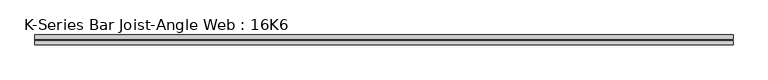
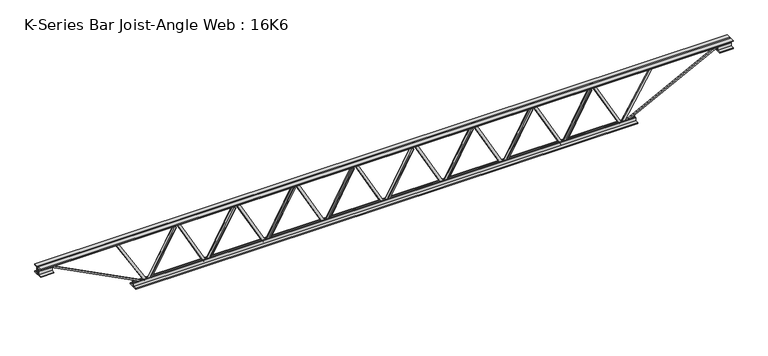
"""IFC4 building model written with IfcOpenShell, lengths in millimetres: beam geometry, K-Series Bar Joist-Angle Web : 16K6."""

import ifcopenshell
import ifcopenshell.guid

model = None  # the IFC model being written
_history = None  # IfcOwnerHistory: only IFC2X3 demands one
_inside = {}  # id of a spatial element -> (the spatial element, [elements in it])
_under = {}  # id of a project, library or spatial element -> (it, [spatial elements below it])
_declared = {}  # id of a project -> (the project, [libraries it declares])
_typed = {}  # id of a type object -> (the type object, [elements of that type])
_made_of = {}  # id of a material, layer set ... -> (it, [elements and type objects made of it])


def new_model(schema):
    """Start an empty IFC model of exactly this schema.

    Asked for "IFC4X3", IfcOpenShell would pick the latest addendum, in which some entities
    have other attributes; the version numbers below select the first issue.
    IFC2X3 requires an IfcOwnerHistory on every rooted entity: one is made here for all.
    """
    global model, _history
    if schema == "IFC4X3":
        model = ifcopenshell.file(schema_version=(4, 3, 0, 0))
    else:
        model = ifcopenshell.file(schema=schema)
    _inside.clear()
    _under.clear()
    _declared.clear()
    _typed.clear()
    _made_of.clear()
    _history = None
    if model.schema == "IFC2X3":
        org = make("IfcOrganization", Name="unknown")
        user = make(
            "IfcPersonAndOrganization",
            ThePerson=make("IfcPerson", FamilyName="unknown"),
            TheOrganization=org,
        )
        app = make(
            "IfcApplication",
            ApplicationDeveloper=org,
            Version="unknown",
            ApplicationFullName="unknown",
            ApplicationIdentifier="unknown",
        )
        _history = make(
            "IfcOwnerHistory",
            OwningUser=user,
            OwningApplication=app,
            ChangeAction="ADDED",
            CreationDate=0,
        )
    return model


def make(cls, **values):
    """One entity of the class cls with the attributes given. An attribute that is None is left unset."""
    return model.create_entity(
        cls, **{name: value for name, value in values.items() if value is not None}
    )


def rooted(cls, **values):
    """An entity with a GlobalId (a new one), such as an element, a storey or a relation."""
    return make(cls, GlobalId=ifcopenshell.guid.new(), OwnerHistory=_history, **values)


def si_unit(unit_type, name, prefix=None):
    """IfcSIUnit, for example si_unit("LENGTHUNIT", "METRE", prefix="MILLI")."""
    return make("IfcSIUnit", UnitType=unit_type, Prefix=prefix, Name=name)


def assignment(units):
    """IfcUnitAssignment: the units of a project."""
    return None if units is None else make("IfcUnitAssignment", Units=units)


def point(xyz):
    """IfcCartesianPoint."""
    return None if xyz is None else make("IfcCartesianPoint", Coordinates=xyz)


def direction(xyz):
    """IfcDirection."""
    return None if xyz is None else make("IfcDirection", DirectionRatios=xyz)


def frame(location, z_axis=None, x_axis=None):
    """IfcAxis2Placement3D, a coordinate frame: its origin and axes. An axis left out is left unset."""
    return make(
        "IfcAxis2Placement3D",
        Location=point(location),
        Axis=direction(z_axis),
        RefDirection=direction(x_axis),
    )


def origin():
    """The frame at (0, 0, 0) with its axes left unset."""
    return frame((0.0, 0.0, 0.0))


def place(relative_to, where):
    """IfcLocalPlacement: puts the frame where relative to a parent placement (None: the world)."""
    return make(
        "IfcLocalPlacement", PlacementRelTo=relative_to, RelativePlacement=where
    )


def context(
    kind, dimensions, precision=None, world=None, true_north=None, identifier=None
):
    """IfcGeometricRepresentationContext, for example the 3D "Model" context."""
    return make(
        "IfcGeometricRepresentationContext",
        ContextIdentifier=identifier,
        ContextType=kind,
        CoordinateSpaceDimension=dimensions,
        Precision=precision,
        WorldCoordinateSystem=world,
        TrueNorth=true_north,
    )


def project(units=None, contexts=None):
    """IfcProject with its units and contexts."""
    return rooted(
        "IfcProject",
        Name="project",
        RepresentationContexts=contexts,
        UnitsInContext=assignment(units),
    )


def spatial(cls, under=None, at=None, **own):
    """A site, building, storey or space (cls), placed at a placement, below another one or the project."""
    s = rooted(cls, ObjectPlacement=at, **own)
    if under is not None:
        _under.setdefault(under.id(), (under, []))[1].append(s)
    return s


def polyline(points):
    """IfcPolyline through the points."""
    return make("IfcPolyline", Points=[point(p) for p in points])


def outline(outer, holes=None, kind="AREA"):
    """IfcArbitraryClosedProfileDef: a profile drawn as a closed curve; with holes, ...WithVoids."""
    if holes is None:
        return make("IfcArbitraryClosedProfileDef", ProfileType=kind, OuterCurve=outer)
    return make(
        "IfcArbitraryProfileDefWithVoids",
        ProfileType=kind,
        OuterCurve=outer,
        InnerCurves=holes,
    )


def extrude(swept, where, along, depth):
    """IfcExtrudedAreaSolid: the profile swept, set in the frame where, extruded along a direction by depth."""
    return make(
        "IfcExtrudedAreaSolid",
        SweptArea=swept,
        Position=where,
        ExtrudedDirection=direction(along),
        Depth=depth,
    )


def faces_of(points, faces, orient=None, outer=None):
    """IfcFace entities. A face is a list of loops; a loop is a list of indices into points, from 0.

    orient and outer hold one flag for each loop. By default every Orientation is true, the
    first loop of a face is its IfcFaceOuterBound and the others are IfcFaceBound.
    """
    made = []
    for i, loops in enumerate(faces):
        bounds = []
        for j, loop in enumerate(loops):
            is_outer = j == 0 if outer is None else outer[i][j]
            bounds.append(
                make(
                    "IfcFaceOuterBound" if is_outer else "IfcFaceBound",
                    Bound=make("IfcPolyLoop", Polygon=[points[k] for k in loop]),
                    Orientation=True if orient is None else orient[i][j],
                )
            )
        made.append(make("IfcFace", Bounds=bounds))
    return made


def faceted_brep(points, faces, orient=None, outer=None, voids=None):
    """IfcFacetedBrep: a solid bounded by flat faces; with voids (closed shells), ...WithVoids."""
    shared = [point(p) for p in points]
    hull = make("IfcClosedShell", CfsFaces=faces_of(shared, faces, orient, outer))
    if voids is None:
        return make("IfcFacetedBrep", Outer=hull)
    return make(
        "IfcFacetedBrepWithVoids",
        Outer=hull,
        Voids=[
            make(cls, CfsFaces=faces_of(shared, fs, o, b)) for cls, fs, o, b in voids
        ],
    )


def shape(context_of_items, identifier, shape_type, items):
    """IfcShapeRepresentation: the items that make up one representation, for example the "Body"."""
    return make(
        "IfcShapeRepresentation",
        ContextOfItems=context_of_items,
        RepresentationIdentifier=identifier,
        RepresentationType=shape_type,
        Items=items,
    )


def source(mapping_origin, context_of_items, identifier, shape_type, items):
    """IfcRepresentationMap: a shape defined once, which mapped items show again and again."""
    return make(
        "IfcRepresentationMap",
        MappingOrigin=mapping_origin,
        MappedRepresentation=shape(context_of_items, identifier, shape_type, items),
    )


def transform(
    local_origin,
    x_axis=None,
    y_axis=None,
    z_axis=None,
    scale=None,
    scale2=None,
    scale3=None,
    uniform=True,
):
    """IfcCartesianTransformationOperator3D, or its non-uniform kind. x_axis, y_axis, z_axis: its Axis1, 2, 3."""
    if uniform:
        return make(
            "IfcCartesianTransformationOperator3D",
            Axis1=direction(x_axis),
            Axis2=direction(y_axis),
            LocalOrigin=point(local_origin),
            Scale=scale,
            Axis3=direction(z_axis),
        )
    return make(
        "IfcCartesianTransformationOperator3DnonUniform",
        Axis1=direction(x_axis),
        Axis2=direction(y_axis),
        LocalOrigin=point(local_origin),
        Scale=scale,
        Axis3=direction(z_axis),
        Scale2=scale2,
        Scale3=scale3,
    )


def mapped(mapping_source, mapping_target):
    """IfcMappedItem: shows the shape of a source again, moved by a transform."""
    return make(
        "IfcMappedItem", MappingSource=mapping_source, MappingTarget=mapping_target
    )


def made_of(thing, what):
    """Note that an element or type object is made of a material, layer set ...; save() writes the relation."""
    if what is not None:
        _made_of.setdefault(what.id(), (what, []))[1].append(thing)
    return thing


def element(
    cls,
    number,
    at=None,
    inside=None,
    cuts=None,
    type_object=None,
    material=None,
    context=None,
    identifier="Body",
    shape_type=None,
    held_by="IfcProductDefinitionShape",
    body=None,
    shapes=None,
    **own,
):
    """One element of the class cls, such as IfcWall. Its Tag is "e" and its number.

    at: its placement. inside: the storey or other place that contains it. cuts: it is an
    opening in that element (IfcRelVoidsElement). A single representation is given by context,
    identifier, shape_type and body (its items); several are given by shapes. held_by: the class
    of the entity that holds the representations. save() writes the other relations.
    """
    e = rooted(cls, Tag="e%d" % number, ObjectPlacement=at, **own)
    if body is not None:
        shapes = [shape(context, identifier, shape_type, body)]
    if shapes is not None:
        e.Representation = make(held_by, Representations=shapes)
    if inside is not None:
        _inside.setdefault(inside.id(), (inside, []))[1].append(e)
    if cuts is not None:
        rooted(
            "IfcRelVoidsElement", RelatingBuildingElement=cuts, RelatedOpeningElement=e
        )
    if type_object is not None:
        _typed.setdefault(type_object.id(), (type_object, []))[1].append(e)
    return made_of(e, material)


def aggregate(whole, parts):
    """IfcRelAggregates: a whole, such as a stair, and the parts it consists of."""
    return rooted("IfcRelAggregates", RelatingObject=whole, RelatedObjects=parts)


def save(model, path):
    """Write the relations noted so far, then the file.

    IfcRelAggregates (storeys below a building ...), IfcRelContainedInSpatialStructure (elements
    in a storey), IfcRelDefinesByType, IfcRelAssociatesMaterial and IfcRelDeclares: one each for
    every whole, place, type object, material and project.
    """
    for whole, parts in _under.values():
        aggregate(whole, parts)
    for where, things in _inside.values():
        rooted(
            "IfcRelContainedInSpatialStructure",
            RelatedElements=things,
            RelatingStructure=where,
        )
    for kind, things in _typed.values():
        rooted("IfcRelDefinesByType", RelatedObjects=things, RelatingType=kind)
    for what, things in _made_of.values():
        rooted("IfcRelAssociatesMaterial", RelatedObjects=things, RelatingMaterial=what)
    for by, libraries in _declared.values():
        rooted("IfcRelDeclares", RelatingContext=by, RelatedDefinitions=libraries)
    model.write(path)


def k_series_bar_joist_angle_web_16k6_7619eb6f(model_context):
    return source(origin(), model_context, "Body", "SolidModel", [
        extrude(outline(polyline([(-4.75, 4.7625), (-4.75, 0.0), (-17.45, 0.0), (-17.45, 4.7625), (-4.75, 4.7625)])), frame((1299.688596, 0.0, -164.9), z_axis=(-0.48142361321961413, 0.0, 0.8764880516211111), x_axis=(0.0, -1.0, 0.0)), (0.0, 0.0, 1.0), 376.2743821),
        extrude(outline(polyline([(-199.825, 1330.8571429), (-180.775, 1330.8571429), (-180.775, 1330.1426334), (199.825, 1121.0926334), (199.825, 1102.7571429), (180.775, 1102.7571429), (180.775, 1109.8216524), (-199.825, 1318.8716524), (-199.825, 1330.8571429)])), frame((0.0, 0.0, 0.0), z_axis=(0.0, 1.0, 0.0), x_axis=(0.0, 0.0, 1.0)), (0.0, 0.0, 1.0), 4.75),
        faceted_brep([(887.3571429, 0.0, -180.775), (887.3571429, 0.0, -199.825), (887.3571429, -4.75, -199.825), (887.3571429, -4.75, -180.775), (888.0716524, 0.0, -180.775), (1097.1216524, 0.0, 199.825), (1115.4571429, 0.0, 199.825), (1115.4571429, 0.0, 180.775), (1108.3926334, 0.0, 180.775), (899.3426334, 0.0, -199.825), (899.3426334, -4.75, -199.825), (918.5256897, -4.75, -164.9), (914.3514154, -4.75, -162.60722), (1095.4987879, -4.75, 167.19278), (1099.6730623, -4.75, 164.9), (1108.3926334, -4.75, 180.775), (1115.4571429, -4.75, 180.775), (1115.4571429, -4.75, 199.825), (1097.1216524, -4.75, 199.825), (888.0716524, -4.75, -180.775), (1099.6730623, -17.4625, 164.9), (918.5256897, -17.4625, -164.9), (914.3514154, -17.4625, -162.60722), (1095.4987879, -17.4625, 167.19278)], [[[0, 1, 2, 3]], [[1, 0, 4, 5, 6, 7, 8, 9]], [[2, 1, 9, 10]], [[3, 2, 10, 11, 12, 13, 14, 15, 16, 17, 18, 19]], [[0, 3, 19, 4]], [[9, 8, 15, 14, 20, 21, 11, 10]], [[5, 4, 19, 18]], [[7, 6, 17, 16]], [[8, 7, 16, 15]], [[6, 5, 18, 17]], [[21, 22, 12, 11]], [[20, 14, 13, 23]], [[22, 21, 20, 23]], [[12, 22, 23, 13]]]),
        extrude(outline(polyline([(-4.75, 4.7625), (-4.75, 0.0), (-17.45, 0.0), (-17.45, 4.7625), (-4.75, 4.7625)])), frame((856.0457389, 0.0, -164.9), z_axis=(-0.48142361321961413, 0.0, 0.8764880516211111), x_axis=(0.0, -1.0, 0.0)), (0.0, 0.0, 1.0), 376.2743821),
        extrude(outline(polyline([(-199.825, 887.2142857), (-180.775, 887.2142857), (-180.775, 886.4997762), (199.825, 677.4497762), (199.825, 659.1142857), (180.775, 659.1142857), (180.775, 666.1787952), (-199.825, 875.2287952), (-199.825, 887.2142857)])), frame((0.0, 0.0, 0.0), z_axis=(0.0, 1.0, 0.0), x_axis=(0.0, 0.0, 1.0)), (0.0, 0.0, 1.0), 4.75),
        faceted_brep([(443.7142857, 0.0, -180.775), (443.7142857, 0.0, -199.825), (443.7142857, -4.75, -199.825), (443.7142857, -4.75, -180.775), (444.4287952, 0.0, -180.775), (653.4787952, 0.0, 199.825), (671.8142857, 0.0, 199.825), (671.8142857, 0.0, 180.775), (664.7497762, 0.0, 180.775), (455.6997762, 0.0, -199.825), (455.6997762, -4.75, -199.825), (474.8828326, -4.75, -164.9), (470.7085582, -4.75, -162.60722), (651.8559308, -4.75, 167.19278), (656.0302051, -4.75, 164.9), (664.7497762, -4.75, 180.775), (671.8142857, -4.75, 180.775), (671.8142857, -4.75, 199.825), (653.4787952, -4.75, 199.825), (444.4287952, -4.75, -180.775), (656.0302051, -17.4625, 164.9), (474.8828326, -17.4625, -164.9), (470.7085582, -17.4625, -162.60722), (651.8559308, -17.4625, 167.19278)], [[[0, 1, 2, 3]], [[1, 0, 4, 5, 6, 7, 8, 9]], [[2, 1, 9, 10]], [[3, 2, 10, 11, 12, 13, 14, 15, 16, 17, 18, 19]], [[0, 3, 19, 4]], [[9, 8, 15, 14, 20, 21, 11, 10]], [[5, 4, 19, 18]], [[7, 6, 17, 16]], [[8, 7, 16, 15]], [[6, 5, 18, 17]], [[21, 22, 12, 11]], [[20, 14, 13, 23]], [[22, 21, 20, 23]], [[12, 22, 23, 13]]]),
        extrude(outline(polyline([(-4.75, 4.7625001), (-4.75, 0.0), (-17.45, 0.0), (-17.45, 4.7625001), (-4.75, 4.7625001)])), frame((412.4028817, 0.0, -164.9), z_axis=(-0.48142361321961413, 0.0, 0.8764880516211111), x_axis=(0.0, -1.0, 0.0)), (0.0, 0.0, 1.0), 376.2743821),
        extrude(outline(polyline([(-199.825, 443.5714286), (-180.775, 443.5714286), (-180.775, 442.8569191), (199.825, 233.8069191), (199.825, 215.4714286), (180.775, 215.4714286), (180.775, 222.5359381), (-199.825, 431.5859381), (-199.825, 443.5714286)])), frame((0.0, 0.0, 0.0), z_axis=(0.0, 1.0, 0.0), x_axis=(0.0, 0.0, 1.0)), (0.0, 0.0, 1.0), 4.75),
        faceted_brep([(0.0714286, 0.0, -180.775), (0.0714286, 0.0, -199.825), (0.0714286, -4.75, -199.825), (0.0714286, -4.75, -180.775), (0.7859381, 0.0, -180.775), (209.8359381, 0.0, 199.825), (228.1714286, 0.0, 199.825), (228.1714286, 0.0, 180.775), (221.1069191, 0.0, 180.775), (12.0569191, 0.0, -199.825), (12.0569191, -4.75, -199.825), (31.2399754, -4.75, -164.9), (27.0657011, -4.75, -162.60722), (208.2130736, -4.75, 167.19278), (212.387348, -4.75, 164.9), (221.1069191, -4.75, 180.775), (228.1714286, -4.75, 180.775), (228.1714286, -4.75, 199.825), (209.8359381, -4.75, 199.825), (0.7859381, -4.75, -180.775), (212.387348, -17.4625, 164.9), (31.2399754, -17.4625, -164.9), (27.0657011, -17.4625, -162.60722), (208.2130736, -17.4625, 167.19278)], [[[0, 1, 2, 3]], [[1, 0, 4, 5, 6, 7, 8, 9]], [[2, 1, 9, 10]], [[3, 2, 10, 11, 12, 13, 14, 15, 16, 17, 18, 19]], [[0, 3, 19, 4]], [[9, 8, 15, 14, 20, 21, 11, 10]], [[5, 4, 19, 18]], [[7, 6, 17, 16]], [[8, 7, 16, 15]], [[6, 5, 18, 17]], [[21, 22, 12, 11]], [[20, 14, 13, 23]], [[22, 21, 20, 23]], [[12, 22, 23, 13]]]),
        extrude(outline(polyline([(-4.75, 4.7625), (-4.75, 0.0), (-17.45, 0.0), (-17.45, 4.7625), (-4.75, 4.7625)])), frame((-31.2399754, 0.0, -164.9), z_axis=(-0.48142361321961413, 0.0, 0.8764880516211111), x_axis=(0.0, -1.0, 0.0)), (0.0, 0.0, 1.0), 376.2743821),
        extrude(outline(polyline([(-199.825, -0.0714286), (-180.775, -0.0714286), (-180.775, -0.7859381), (199.825, -209.8359381), (199.825, -228.1714286), (180.775, -228.1714286), (180.775, -221.1069191), (-199.825, -12.0569191), (-199.825, -0.0714286)])), frame((0.0, 0.0, 0.0), z_axis=(0.0, 1.0, 0.0), x_axis=(0.0, 0.0, 1.0)), (0.0, 0.0, 1.0), 4.75),
        faceted_brep([(-443.5714286, 0.0, -180.775), (-443.5714286, 0.0, -199.825), (-443.5714286, -4.75, -199.825), (-443.5714286, -4.75, -180.775), (-442.8569191, 0.0, -180.775), (-233.8069191, 0.0, 199.825), (-215.4714286, 0.0, 199.825), (-215.4714286, 0.0, 180.775), (-222.5359381, 0.0, 180.775), (-431.5859381, 0.0, -199.825), (-431.5859381, -4.75, -199.825), (-412.4028817, -4.75, -164.9), (-416.5771561, -4.75, -162.60722), (-235.4297835, -4.75, 167.19278), (-231.2555091, -4.75, 164.9), (-222.5359381, -4.75, 180.775), (-215.4714286, -4.75, 180.775), (-215.4714286, -4.75, 199.825), (-233.8069191, -4.75, 199.825), (-442.8569191, -4.75, -180.775), (-231.2555091, -17.4625, 164.9), (-412.4028817, -17.4625, -164.9), (-416.5771561, -17.4625, -162.60722), (-235.4297835, -17.4625, 167.19278)], [[[0, 1, 2, 3]], [[1, 0, 4, 5, 6, 7, 8, 9]], [[2, 1, 9, 10]], [[3, 2, 10, 11, 12, 13, 14, 15, 16, 17, 18, 19]], [[0, 3, 19, 4]], [[9, 8, 15, 14, 20, 21, 11, 10]], [[5, 4, 19, 18]], [[7, 6, 17, 16]], [[8, 7, 16, 15]], [[6, 5, 18, 17]], [[21, 22, 12, 11]], [[20, 14, 13, 23]], [[22, 21, 20, 23]], [[12, 22, 23, 13]]]),
        extrude(outline(polyline([(-4.75, 4.7625001), (-4.75, 0.0), (-17.45, 0.0), (-17.45, 4.7625001), (-4.75, 4.7625001)])), frame((-474.8828326, 0.0, -164.9), z_axis=(-0.48142361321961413, 0.0, 0.8764880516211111), x_axis=(0.0, -1.0, 0.0)), (0.0, 0.0, 1.0), 376.2743821),
        extrude(outline(polyline([(-199.825, -443.7142857), (-180.775, -443.7142857), (-180.775, -444.4287952), (199.825, -653.4787952), (199.825, -671.8142857), (180.775, -671.8142857), (180.775, -664.7497762), (-199.825, -455.6997762), (-199.825, -443.7142857)])), frame((0.0, 0.0, 0.0), z_axis=(0.0, 1.0, 0.0), x_axis=(0.0, 0.0, 1.0)), (0.0, 0.0, 1.0), 4.75),
        faceted_brep([(-887.2142857, 0.0, -180.775), (-887.2142857, 0.0, -199.825), (-887.2142857, -4.75, -199.825), (-887.2142857, -4.75, -180.775), (-886.4997762, 0.0, -180.775), (-677.4497762, 0.0, 199.825), (-659.1142857, 0.0, 199.825), (-659.1142857, 0.0, 180.775), (-666.1787952, 0.0, 180.775), (-875.2287952, 0.0, -199.825), (-875.2287952, -4.75, -199.825), (-856.0457389, -4.75, -164.9), (-860.2200132, -4.75, -162.60722), (-679.0726406, -4.75, 167.19278), (-674.8983663, -4.75, 164.9), (-666.1787952, -4.75, 180.775), (-659.1142857, -4.75, 180.775), (-659.1142857, -4.75, 199.825), (-677.4497762, -4.75, 199.825), (-886.4997762, -4.75, -180.775), (-674.8983663, -17.4625, 164.9), (-856.0457389, -17.4625, -164.9), (-860.2200132, -17.4625, -162.60722), (-679.0726406, -17.4625, 167.19278)], [[[0, 1, 2, 3]], [[1, 0, 4, 5, 6, 7, 8, 9]], [[2, 1, 9, 10]], [[3, 2, 10, 11, 12, 13, 14, 15, 16, 17, 18, 19]], [[0, 3, 19, 4]], [[9, 8, 15, 14, 20, 21, 11, 10]], [[5, 4, 19, 18]], [[7, 6, 17, 16]], [[8, 7, 16, 15]], [[6, 5, 18, 17]], [[21, 22, 12, 11]], [[20, 14, 13, 23]], [[22, 21, 20, 23]], [[12, 22, 23, 13]]]),
        extrude(outline(polyline([(-4.75, 4.7625), (-4.75, 0.0), (-17.45, 0.0), (-17.45, 4.7625), (-4.75, 4.7625)])), frame((-918.5256897, 0.0, -164.9), z_axis=(-0.48142361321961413, 0.0, 0.8764880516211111), x_axis=(0.0, -1.0, 0.0)), (0.0, 0.0, 1.0), 376.2743821),
        extrude(outline(polyline([(-199.825, -887.3571429), (-180.775, -887.3571429), (-180.775, -888.0716524), (199.825, -1097.1216524), (199.825, -1115.4571429), (180.775, -1115.4571429), (180.775, -1108.3926334), (-199.825, -899.3426334), (-199.825, -887.3571429)])), frame((0.0, 0.0, 0.0), z_axis=(0.0, 1.0, 0.0), x_axis=(0.0, 0.0, 1.0)), (0.0, 0.0, 1.0), 4.75),
        faceted_brep([(-1330.8571429, 0.0, -180.775), (-1330.8571429, 0.0, -199.825), (-1330.8571429, -4.75, -199.825), (-1330.8571429, -4.75, -180.775), (-1330.1426334, 0.0, -180.775), (-1121.0926334, 0.0, 199.825), (-1102.7571429, 0.0, 199.825), (-1102.7571429, 0.0, 180.775), (-1109.8216524, 0.0, 180.775), (-1318.8716524, 0.0, -199.825), (-1318.8716524, -4.75, -199.825), (-1299.688596, -4.75, -164.9), (-1303.8628703, -4.75, -162.60722), (-1122.7154978, -4.75, 167.19278), (-1118.5412234, -4.75, 164.9), (-1109.8216524, -4.75, 180.775), (-1102.7571429, -4.75, 180.775), (-1102.7571429, -4.75, 199.825), (-1121.0926334, -4.75, 199.825), (-1330.1426334, -4.75, -180.775), (-1118.5412234, -17.4625, 164.9), (-1299.688596, -17.4625, -164.9), (-1303.8628703, -17.4625, -162.60722), (-1122.7154978, -17.4625, 167.19278)], [[[0, 1, 2, 3]], [[1, 0, 4, 5, 6, 7, 8, 9]], [[2, 1, 9, 10]], [[3, 2, 10, 11, 12, 13, 14, 15, 16, 17, 18, 19]], [[0, 3, 19, 4]], [[9, 8, 15, 14, 20, 21, 11, 10]], [[5, 4, 19, 18]], [[7, 6, 17, 16]], [[8, 7, 16, 15]], [[6, 5, 18, 17]], [[21, 22, 12, 11]], [[20, 14, 13, 23]], [[22, 21, 20, 23]], [[12, 22, 23, 13]]]),
        extrude(outline(polyline([(-4.75, 4.7625001), (-4.75, 0.0), (-17.45, 0.0), (-17.45, 4.7625001), (-4.75, 4.7625001)])), frame((1743.3314531, 0.0, -164.9), z_axis=(-0.48142361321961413, 0.0, 0.8764880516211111), x_axis=(0.0, -1.0, 0.0)), (0.0, 0.0, 1.0), 376.2743821),
        extrude(outline(polyline([(-199.825, 1774.5), (-180.775, 1774.5), (-180.775, 1773.7854905), (199.825, 1564.7354905), (199.825, 1546.4), (180.775, 1546.4), (180.775, 1553.4645095), (-199.825, 1762.5145095), (-199.825, 1774.5)])), frame((0.0, 0.0, 0.0), z_axis=(0.0, 1.0, 0.0), x_axis=(0.0, 0.0, 1.0)), (0.0, 0.0, 1.0), 4.75),
        faceted_brep([(1331.0, 0.0, -180.775), (1331.0, 0.0, -199.825), (1331.0, -4.75, -199.825), (1331.0, -4.75, -180.775), (1331.7145095, 0.0, -180.775), (1540.7645095, 0.0, 199.825), (1559.1, 0.0, 199.825), (1559.1, 0.0, 180.775), (1552.0354905, 0.0, 180.775), (1342.9854905, 0.0, -199.825), (1342.9854905, -4.75, -199.825), (1362.1685469, -4.75, -164.9), (1357.9942725, -4.75, -162.60722), (1539.1416451, -4.75, 167.19278), (1543.3159194, -4.75, 164.9), (1552.0354905, -4.75, 180.775), (1559.1, -4.75, 180.775), (1559.1, -4.75, 199.825), (1540.7645095, -4.75, 199.825), (1331.7145095, -4.75, -180.775), (1543.3159194, -17.4625, 164.9), (1362.1685469, -17.4625, -164.9), (1357.9942725, -17.4625, -162.60722), (1539.1416451, -17.4625, 167.19278)], [[[0, 1, 2, 3]], [[1, 0, 4, 5, 6, 7, 8, 9]], [[2, 1, 9, 10]], [[3, 2, 10, 11, 12, 13, 14, 15, 16, 17, 18, 19]], [[0, 3, 19, 4]], [[9, 8, 15, 14, 20, 21, 11, 10]], [[5, 4, 19, 18]], [[7, 6, 17, 16]], [[8, 7, 16, 15]], [[6, 5, 18, 17]], [[21, 22, 12, 11]], [[20, 14, 13, 23]], [[22, 21, 20, 23]], [[12, 22, 23, 13]]]),
        extrude(outline(polyline([(-4.75, 4.7625001), (-4.75, 0.0), (-17.45, 0.0), (-17.45, 4.7625001), (-4.75, 4.7625001)])), frame((-1362.1685469, 0.0, -164.9), z_axis=(-0.48142361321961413, 0.0, 0.8764880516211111), x_axis=(0.0, -1.0, 0.0)), (0.0, 0.0, 1.0), 376.2743821),
        extrude(outline(polyline([(-199.825, -1331.0), (-180.775, -1331.0), (-180.775, -1331.7145095), (199.825, -1540.7645095), (199.825, -1559.1), (180.775, -1559.1), (180.775, -1552.0354905), (-199.825, -1342.9854905), (-199.825, -1331.0)])), frame((0.0, 0.0, 0.0), z_axis=(0.0, 1.0, 0.0), x_axis=(0.0, 0.0, 1.0)), (0.0, 0.0, 1.0), 4.75),
        faceted_brep([(-1774.5, 0.0, -180.775), (-1774.5, 0.0, -199.825), (-1774.5, -4.75, -199.825), (-1774.5, -4.75, -180.775), (-1773.7854905, 0.0, -180.775), (-1564.7354905, 0.0, 199.825), (-1546.4, 0.0, 199.825), (-1546.4, 0.0, 180.775), (-1553.4645095, 0.0, 180.775), (-1762.5145095, 0.0, -199.825), (-1762.5145095, -4.75, -199.825), (-1743.3314531, -4.75, -164.9), (-1747.5057275, -4.75, -162.60722), (-1566.3583549, -4.75, 167.19278), (-1562.1840806, -4.75, 164.9), (-1553.4645095, -4.75, 180.775), (-1546.4, -4.75, 180.775), (-1546.4, -4.75, 199.825), (-1564.7354905, -4.75, 199.825), (-1773.7854905, -4.75, -180.775), (-1562.1840806, -17.4625, 164.9), (-1743.3314531, -17.4625, -164.9), (-1747.5057275, -17.4625, -162.60722), (-1566.3583549, -17.4625, 167.19278)], [[[0, 1, 2, 3]], [[1, 0, 4, 5, 6, 7, 8, 9]], [[2, 1, 9, 10]], [[3, 2, 10, 11, 12, 13, 14, 15, 16, 17, 18, 19]], [[0, 3, 19, 4]], [[9, 8, 15, 14, 20, 21, 11, 10]], [[5, 4, 19, 18]], [[7, 6, 17, 16]], [[8, 7, 16, 15]], [[6, 5, 18, 17]], [[21, 22, 12, 11]], [[20, 14, 13, 23]], [[22, 21, 20, 23]], [[12, 22, 23, 13]]]),
        extrude(outline(polyline([(4.75, 203.0), (36.75, 203.0), (36.75, 196.5), (11.25, 196.5), (11.25, 171.0), (4.75, 171.0), (4.75, 203.0)])), frame((-2586.5, 0.0, 0.0), z_axis=(1.0, 0.0, 0.0), x_axis=(0.0, 1.0, 0.0)), (0.0, 0.0, 1.0), 5173.0),
        extrude(outline(polyline([(-4.75, 203.0), (-4.75, 171.0), (-11.25, 171.0), (-11.25, 196.5), (-36.75, 196.5), (-36.75, 203.0), (-4.75, 203.0)])), frame((-2586.5, 0.0, 0.0), z_axis=(1.0, 0.0, 0.0), x_axis=(0.0, 1.0, 0.0)), (0.0, 0.0, 1.0), 5173.0),
        extrude(outline(polyline([(4.75, -203.0), (4.75, -171.0), (11.25, -171.0), (11.25, -196.5), (36.75, -196.5), (36.75, -203.0), (4.75, -203.0)])), frame((-1874.5, 0.0, 0.0), z_axis=(1.0, 0.0, 0.0), x_axis=(0.0, 1.0, 0.0)), (0.0, 0.0, 1.0), 3749.0),
        extrude(outline(polyline([(-4.75, -203.0), (-36.75, -203.0), (-36.75, -196.5), (-11.25, -196.5), (-11.25, -171.0), (-4.75, -171.0), (-4.75, -203.0)])), frame((-1874.5, 0.0, 0.0), z_axis=(1.0, 0.0, 0.0), x_axis=(0.0, 1.0, 0.0)), (0.0, 0.0, 1.0), 3749.0),
        extrude(outline(polyline([(4.75, 139.5), (4.75, 171.0), (11.25, 171.0), (11.25, 146.0), (36.75, 146.0), (36.75, 139.5), (4.75, 139.5)])), frame((2486.5, 0.0, 0.0), z_axis=(1.0, 0.0, 0.0), x_axis=(0.0, 1.0, 0.0)), (0.0, 0.0, 1.0), 100.0),
        extrude(outline(polyline([(-4.75, 139.5), (-36.75, 139.5), (-36.75, 146.0), (-11.25, 146.0), (-11.25, 171.0), (-4.75, 171.0), (-4.75, 139.5)])), frame((2486.5, 0.0, 0.0), z_axis=(1.0, 0.0, 0.0), x_axis=(0.0, 1.0, 0.0)), (0.0, 0.0, 1.0), 100.0),
        extrude(outline(polyline([(-4.75, 139.5), (-36.75, 139.5), (-36.75, 146.0), (-11.25, 146.0), (-11.25, 171.0), (-4.75, 171.0), (-4.75, 139.5)])), frame((-2586.5, 0.0, 0.0), z_axis=(1.0, 0.0, 0.0), x_axis=(0.0, 1.0, 0.0)), (0.0, 0.0, 1.0), 100.0),
        extrude(outline(polyline([(36.75, 139.5), (4.75, 139.5), (4.75, 171.0), (11.25, 171.0), (11.25, 146.0), (36.75, 146.0), (36.75, 139.5)])), frame((-2586.5, 0.0, 0.0), z_axis=(1.0, 0.0, 0.0), x_axis=(0.0, 1.0, 0.0)), (0.0, 0.0, 1.0), 100.0),
        extrude(outline(polyline([(193.9566712, -2016.2071429), (174.9066712, -2016.2071429), (174.9066712, -2008.6199315), (-201.3124385, -1782.2487717), (-191.4908944, -1765.9257888), (193.9566712, -1997.8497134), (193.9566712, -2016.2071429)])), frame((0.0, 0.0, 0.0), z_axis=(0.0, 1.0, 0.0), x_axis=(0.0, 0.0, 1.0)), (0.0, 0.0, 1.0), 4.7625),
        extrude(outline(polyline([(-4.7625, -10.5646146), (-4.7625, 8.4853854), (0.0, 8.4853854), (0.0, -10.5646146), (-4.7625, -10.5646146)])), frame((1774.5, 0.0, -196.65), z_axis=(0.5164809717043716, 0.0, 0.8562986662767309), x_axis=(0.0, -1.0, 0.0)), (0.0, 0.0, 1.0), 429.3478601),
        extrude(outline(polyline([(-200.8705467, -1776.6793315), (-192.4294533, -1772.3206685), (175.75, -2485.3460208), (175.75, -2586.5), (166.25, -2586.5), (166.25, -2487.6539792), (-200.8705467, -1776.6793315)])), frame((0.0, -4.75, 0.0), z_axis=(0.0, 1.0, 0.0), x_axis=(0.0, 0.0, 1.0)), (0.0, 0.0, 1.0), 9.5),
        extrude(outline(polyline([(0.0, -9.5), (0.0, 0.0), (801.3179909, 0.0), (801.3179909, -9.5), (0.0, -9.5)])), frame((2488.6793315, -4.75, 166.7794533), z_axis=(-0.45880662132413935, 0.0, 0.8885361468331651), x_axis=(-0.8885361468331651, 0.0, -0.45880662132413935)), (0.0, 0.0, 1.0), 9.5),
    ])


if __name__ == "__main__":
    model = new_model("IFC4")
    model_context = context("Model", 3, world=origin())
    ifc_project = project(units=[si_unit("LENGTHUNIT", "METRE", prefix="MILLI")], contexts=[model_context])
    site = spatial("IfcSite", under=ifc_project)
    building = spatial("IfcBuilding", under=site)
    placement = place(None, origin())
    k_series_bar_joist_angle_web_16k6_shape = k_series_bar_joist_angle_web_16k6_7619eb6f(model_context)
    element("IfcBeam", 1, ObjectType="K-Series Bar Joist-Angle Web : 16K6", at=placement, inside=building, context=model_context, shape_type="MappedRepresentation", body=[
        mapped(k_series_bar_joist_angle_web_16k6_shape, transform((0.0, 0.0, 0.0), x_axis=(1.0, 0.0, 0.0), y_axis=(0.0, 1.0, 0.0), z_axis=(0.0, 0.0, 1.0))),
    ])
    save(model, "model.ifc")
